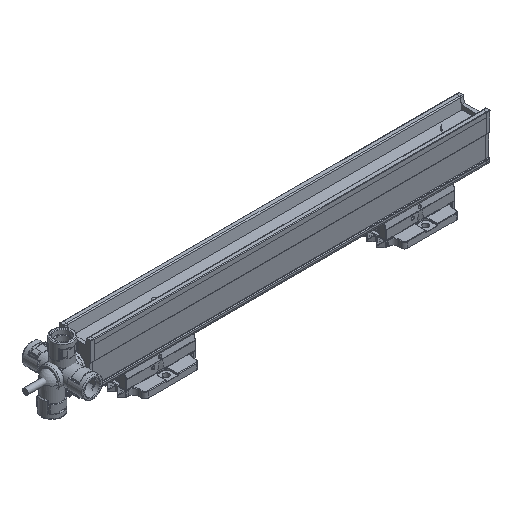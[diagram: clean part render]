
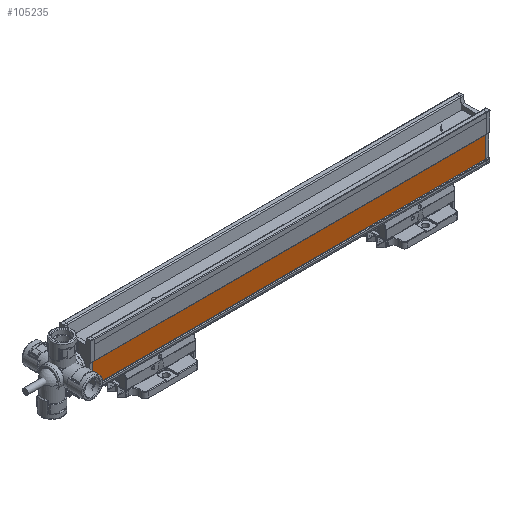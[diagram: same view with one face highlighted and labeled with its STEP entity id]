
A CAD part, isometric view. The second image highlights one B-rep face of the part: STEP entity #105235.
In plain terms, the highlighted planar face has unit normal (0, -1, 0) as drawn and (-1, 0, 0) by its records, which use the part's own axes.
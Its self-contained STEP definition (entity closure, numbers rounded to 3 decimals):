
#1447=VECTOR('',#69411,1.);
#1482=VECTOR('',#69530,1.);
#1519=VECTOR('',#69643,1.);
#1520=VECTOR('',#69646,1.);
#4215=LINE('',#79488,#1447);
#4250=LINE('',#79638,#1482);
#4287=LINE('',#79715,#1519);
#4288=LINE('',#79717,#1520);
#45474=PLANE('',#101546);
#46636=ORIENTED_EDGE('',*,*,#60422,.F.);
#46637=ORIENTED_EDGE('',*,*,#60382,.F.);
#46638=ORIENTED_EDGE('',*,*,#60421,.T.);
#46639=ORIENTED_EDGE('',*,*,#60307,.F.);
#57295=VERTEX_POINT('',#79485);
#57296=VERTEX_POINT('',#79487);
#57368=VERTEX_POINT('',#79635);
#57369=VERTEX_POINT('',#79637);
#60307=EDGE_CURVE('',#57295,#57296,#4215,.T.);
#60382=EDGE_CURVE('',#57368,#57369,#4250,.T.);
#60421=EDGE_CURVE('',#57368,#57296,#4287,.T.);
#60422=EDGE_CURVE('',#57369,#57295,#4288,.T.);
#65046=EDGE_LOOP('',(#46636,#46637,#46638,#46639));
#67222=FACE_BOUND('',#65046,.T.);
#69411=DIRECTION('',(0.,-20.3,0.));
#69530=DIRECTION('',(0.,20.3,0.));
#69643=DIRECTION('',(0.,0.,378.4));
#69644=DIRECTION('',(-1.,0.,0.));
#69645=DIRECTION('',(0.,1.,0.));
#69646=DIRECTION('',(0.,0.,378.4));
#79485=CARTESIAN_POINT('',(49.046,34.279,378.4));
#79487=CARTESIAN_POINT('',(49.046,13.979,378.4));
#79488=CARTESIAN_POINT('',(49.046,34.279,378.4));
#79635=CARTESIAN_POINT('',(49.046,13.979,0.));
#79637=CARTESIAN_POINT('',(49.046,34.279,0.));
#79638=CARTESIAN_POINT('',(49.046,13.979,0.));
#79715=CARTESIAN_POINT('',(49.046,13.979,0.));
#79716=CARTESIAN_POINT('',(49.046,34.279,0.));
#79717=CARTESIAN_POINT('',(49.046,34.279,0.));
#101546=AXIS2_PLACEMENT_3D('',#79716,#69644,#69645);
#105235=ADVANCED_FACE('',(#67222),#45474,.T.);
